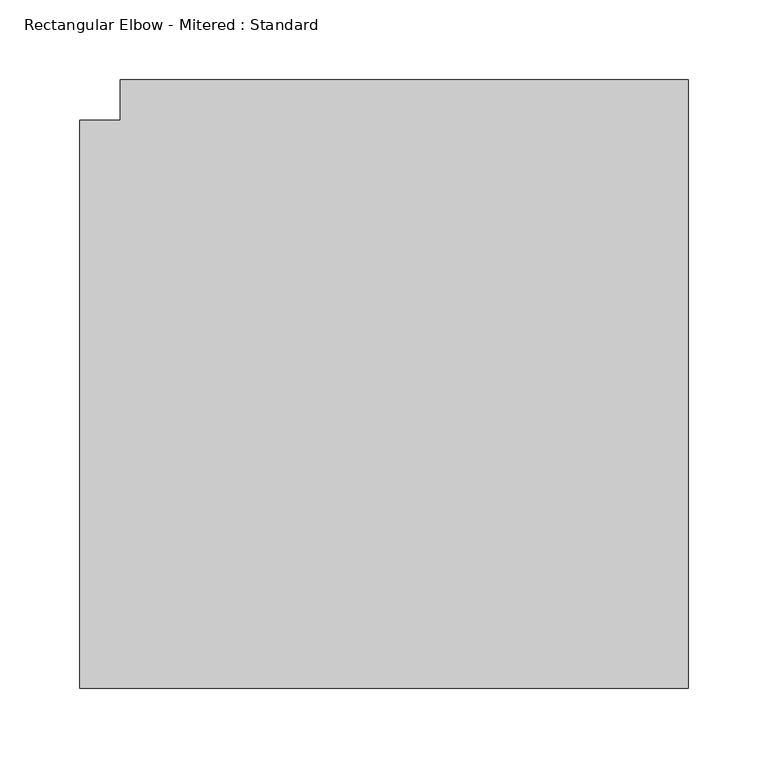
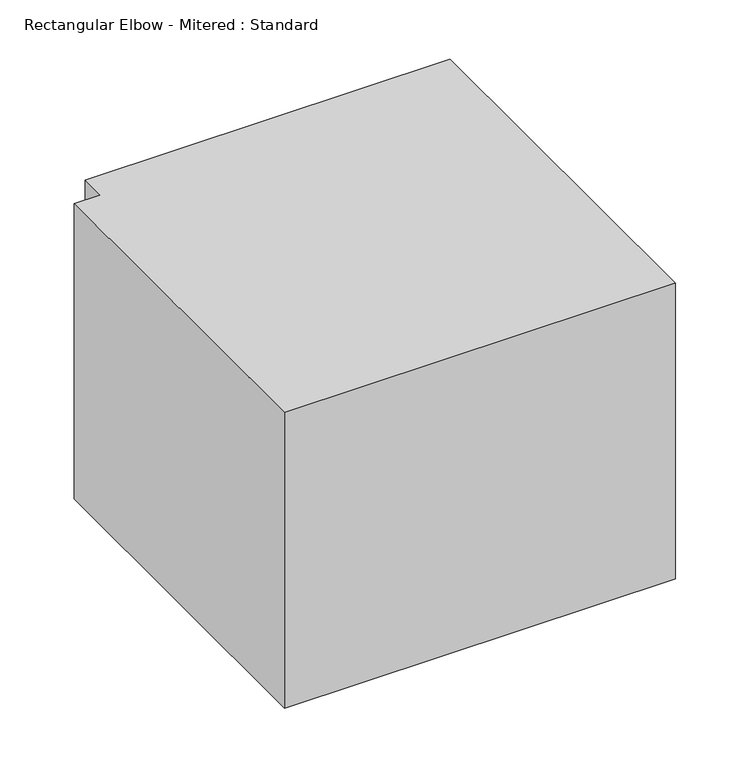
"""IFC4 building model written with IfcOpenShell, lengths in millimetres: duct fitting geometry, Rectangular Elbow - Mitered : Standard."""

from ifc_helpers import new_model, si_unit, frame, origin, place, context, project, spatial, polyline, outline, extrude, source, transform, mapped, element, save


def rectangular_elbow_mitered_standard_452c98c7(model_context):
    return source(origin(), model_context, "Body", "SweptSolid", [
        extrude(outline(polyline([(-203.2, -177.8), (-203.2, 177.8), (-177.8, 177.8), (-177.8, 203.2), (177.8, 203.2), (177.8, -177.8), (-203.2, -177.8)])), frame((0.0, 0.0, -152.4), z_axis=(0.0, 0.0, 1.0), x_axis=(1.0, 0.0, 0.0)), (0.0, 0.0, 1.0), 304.8),
    ])


if __name__ == "__main__":
    model = new_model("IFC4")
    model_context = context("Model", 3, world=origin())
    ifc_project = project(units=[si_unit("LENGTHUNIT", "METRE", prefix="MILLI")], contexts=[model_context])
    site = spatial("IfcSite", under=ifc_project)
    building = spatial("IfcBuilding", under=site)
    placement = place(None, origin())
    rectangular_elbow_mitered_standard_shape = rectangular_elbow_mitered_standard_452c98c7(model_context)
    element("IfcDuctFitting", 1, ObjectType="Rectangular Elbow - Mitered : Standard", at=placement, inside=building, context=model_context, shape_type="MappedRepresentation", body=[
        mapped(rectangular_elbow_mitered_standard_shape, transform((0.0, 0.0, 0.0), x_axis=(1.0, 0.0, 0.0), y_axis=(0.0, 1.0, 0.0), z_axis=(0.0, 0.0, 1.0))),
    ])
    save(model, "model.ifc")
